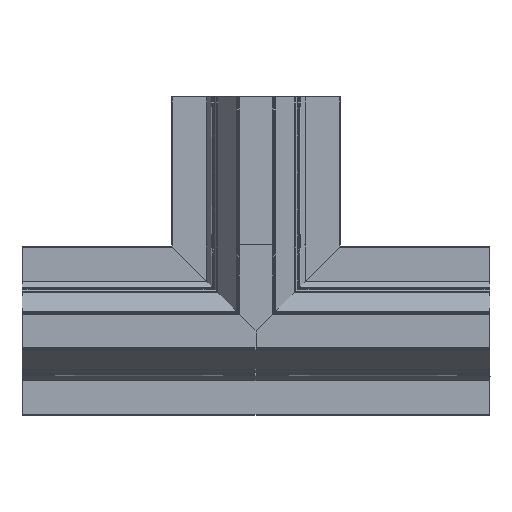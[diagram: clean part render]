
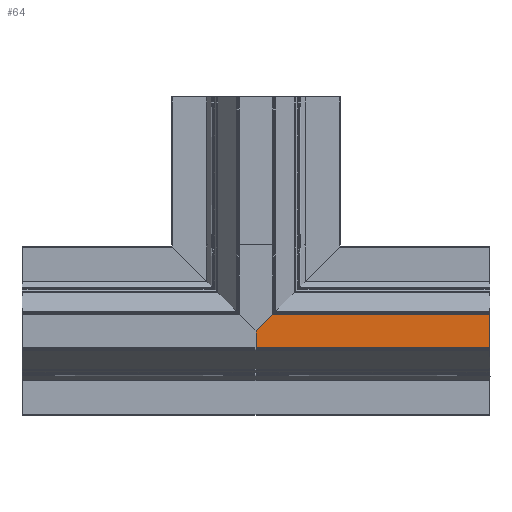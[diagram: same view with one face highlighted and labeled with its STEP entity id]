
A CAD part, top view. The second image highlights one B-rep face of the part: STEP entity #64.
In plain terms, the highlighted free-form (B-spline) face has degree [1, 1] with [2, 2] control points.
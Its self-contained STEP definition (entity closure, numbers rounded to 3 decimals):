
#64=ADVANCED_FACE('',(#348),#8996,.T.);
#348=FACE_OUTER_BOUND('',#632,.T.);
#632=EDGE_LOOP('',(#1282,#1283,#1284,#1285,#1286));
#1282=ORIENTED_EDGE('',*,*,#6371,.T.);
#1283=ORIENTED_EDGE('',*,*,#6369,.F.);
#1284=ORIENTED_EDGE('',*,*,#6086,.F.);
#1285=ORIENTED_EDGE('',*,*,#6372,.T.);
#1286=ORIENTED_EDGE('',*,*,#6373,.T.);
#2275=PCURVE('',#8970,#3651);
#2654=PCURVE('',#8995,#4030);
#2658=PCURVE('',#8996,#4034);
#2659=PCURVE('',#8996,#4035);
#2660=PCURVE('',#8996,#4036);
#2661=PCURVE('',#8996,#4037);
#2662=PCURVE('',#8996,#4038);
#2663=PCURVE('',#8997,#4039);
#2916=PCURVE('',#9029,#4292);
#3181=PCURVE('',#9064,#4557);
#3651=DEFINITIONAL_REPRESENTATION('',(#5042),#16191);
#4030=DEFINITIONAL_REPRESENTATION('',(#7132),#16191);
#4034=DEFINITIONAL_REPRESENTATION('',(#7138),#16191);
#4035=DEFINITIONAL_REPRESENTATION('',(#7139),#16191);
#4036=DEFINITIONAL_REPRESENTATION('',(#7140),#16191);
#4037=DEFINITIONAL_REPRESENTATION('',(#7142),#16191);
#4038=DEFINITIONAL_REPRESENTATION('',(#7144),#16191);
#4039=DEFINITIONAL_REPRESENTATION('',(#7145),#16191);
#4292=DEFINITIONAL_REPRESENTATION('',(#7492),#16191);
#4557=DEFINITIONAL_REPRESENTATION('',(#7873),#16191);
#5042=(
BOUNDED_CURVE()
B_SPLINE_CURVE(2,(#11236,#11237,#11238),.UNSPECIFIED.,.F.,.F.)
B_SPLINE_CURVE_WITH_KNOTS((3,3),(69.16,132.84),
 .UNSPECIFIED.)
CURVE()
GEOMETRIC_REPRESENTATION_ITEM()
RATIONAL_B_SPLINE_CURVE((1.,1.,1.))
REPRESENTATION_ITEM('')
);
#5398=SURFACE_CURVE('',#6759,(#2275,#2660),.PCURVE_S1.);
#5681=SURFACE_CURVE('',#7131,(#2654,#2659),.PCURVE_S1.);
#5683=SURFACE_CURVE('',#7137,(#2658,#2916),.PCURVE_S1.);
#5684=SURFACE_CURVE('',#7141,(#2661,#2663),.PCURVE_S1.);
#5685=SURFACE_CURVE('',#7143,(#2662,#3181),.PCURVE_S1.);
#6086=EDGE_CURVE('',#8439,#8438,#5398,.T.);
#6369=EDGE_CURVE('',#8438,#8516,#5681,.T.);
#6371=EDGE_CURVE('',#8637,#8516,#5683,.T.);
#6372=EDGE_CURVE('',#8439,#8668,#5684,.T.);
#6373=EDGE_CURVE('',#8668,#8637,#5685,.T.);
#6759=B_SPLINE_CURVE_WITH_KNOTS('',1,(#11234,#11235),.UNSPECIFIED.,.F.,
 .F.,(2,2),(69.16,132.84),.UNSPECIFIED.);
#7131=B_SPLINE_CURVE_WITH_KNOTS('',1,(#12984,#12985),.UNSPECIFIED.,.F.,
 .F.,(2,2),(-1505.8,-1224.8),.UNSPECIFIED.);
#7132=B_SPLINE_CURVE_WITH_KNOTS('',1,(#12986,#12987),.UNSPECIFIED.,.F.,
 .F.,(2,2),(-1505.8,-1224.8),.UNSPECIFIED.);
#7137=B_SPLINE_CURVE_WITH_KNOTS('',1,(#12996,#12997),.UNSPECIFIED.,.F.,
 .F.,(2,2),(6043.875,6075.715),.UNSPECIFIED.);
#7138=B_SPLINE_CURVE_WITH_KNOTS('',1,(#12998,#12999),.UNSPECIFIED.,.F.,
 .F.,(2,2),(6043.875,6075.715),.UNSPECIFIED.);
#7139=B_SPLINE_CURVE_WITH_KNOTS('',1,(#13000,#13001),.UNSPECIFIED.,.F.,
 .F.,(2,2),(-1505.8,-1224.8),.UNSPECIFIED.);
#7140=B_SPLINE_CURVE_WITH_KNOTS('',1,(#13002,#13003),.UNSPECIFIED.,.F.,
 .F.,(2,2),(69.16,132.84),.UNSPECIFIED.);
#7141=B_SPLINE_CURVE_WITH_KNOTS('',1,(#13004,#13005),.UNSPECIFIED.,.F.,
 .F.,(2,2),(-1505.8,-1256.64),.UNSPECIFIED.);
#7142=B_SPLINE_CURVE_WITH_KNOTS('',1,(#13006,#13007),.UNSPECIFIED.,.F.,
 .F.,(2,2),(-1505.8,-1256.64),.UNSPECIFIED.);
#7143=B_SPLINE_CURVE_WITH_KNOTS('',1,(#13008,#13009),.UNSPECIFIED.,.F.,
 .F.,(2,2),(-45.029,0.),.UNSPECIFIED.);
#7144=B_SPLINE_CURVE_WITH_KNOTS('',1,(#13010,#13011),.UNSPECIFIED.,.F.,
 .F.,(2,2),(-45.029,0.),.UNSPECIFIED.);
#7145=B_SPLINE_CURVE_WITH_KNOTS('',1,(#13012,#13013),.UNSPECIFIED.,.F.,
 .F.,(2,2),(-1505.8,-1256.64),.UNSPECIFIED.);
#7492=B_SPLINE_CURVE_WITH_KNOTS('',1,(#13854,#13855),.UNSPECIFIED.,.F.,
 .F.,(2,2),(6043.875,6075.715),.UNSPECIFIED.);
#7873=B_SPLINE_CURVE_WITH_KNOTS('',1,(#14890,#14891),.UNSPECIFIED.,.F.,
 .F.,(2,2),(-45.029,0.),.UNSPECIFIED.);
#8438=VERTEX_POINT('',#10651);
#8439=VERTEX_POINT('',#10652);
#8516=VERTEX_POINT('',#10729);
#8637=VERTEX_POINT('',#10850);
#8668=VERTEX_POINT('',#10881);
#8970=B_SPLINE_SURFACE_WITH_KNOTS('',1,1,((#9144,#9145),(#9146,#9147)),
 .UNSPECIFIED.,.F.,.F.,.F.,(2,2),(2,2),(-203.82,2.22),
(-3.,37.8),.UNSPECIFIED.);
#8995=B_SPLINE_SURFACE_WITH_KNOTS('',1,1,((#9394,#9395),(#9396,#9397)),
 .UNSPECIFIED.,.F.,.F.,.F.,(2,2),(2,2),(-707.4,-132.2),
(-14.788,14.788),.UNSPECIFIED.);
#8996=B_SPLINE_SURFACE_WITH_KNOTS('',1,1,((#9398,#9399),(#9400,#9401)),
 .UNSPECIFIED.,.F.,.F.,.F.,(2,2),(2,2),(-707.4,-132.2),
(-31.84,31.84),.UNSPECIFIED.);
#8997=B_SPLINE_SURFACE_WITH_KNOTS('',1,1,((#9402,#9403),(#9404,#9405)),
 .UNSPECIFIED.,.F.,.F.,.F.,(2,2),(2,2),(-707.4,-132.2),
(-14.788,14.788),.UNSPECIFIED.);
#9029=B_SPLINE_SURFACE_WITH_KNOTS('',1,1,((#9734,#9735),(#9736,#9737)),
 .UNSPECIFIED.,.F.,.F.,.F.,(2,2),(2,2),(-31.84,31.84),
(132.2,707.4),.UNSPECIFIED.);
#9064=B_SPLINE_SURFACE_WITH_KNOTS('',1,1,((#10078,#10079),(#10080,#10081)),
 .UNSPECIFIED.,.F.,.F.,.F.,(2,2),(2,2),(-31.84,31.84),
(132.2,707.4),.UNSPECIFIED.);
#9144=CARTESIAN_POINT('',(12817.995,-4605.185,902.1));
#9145=CARTESIAN_POINT('',(12817.995,-4605.185,942.9));
#9146=CARTESIAN_POINT('',(12817.995,-4399.145,902.1));
#9147=CARTESIAN_POINT('',(12817.995,-4399.145,942.9));
#9394=CARTESIAN_POINT('',(12536.995,-4524.863,938.05));
#9395=CARTESIAN_POINT('',(12536.995,-4534.005,909.923));
#9396=CARTESIAN_POINT('',(13112.195,-4524.863,938.05));
#9397=CARTESIAN_POINT('',(13112.195,-4534.005,909.923));
#9398=CARTESIAN_POINT('',(12536.995,-4534.005,909.923));
#9399=CARTESIAN_POINT('',(12536.995,-4470.325,909.923));
#9400=CARTESIAN_POINT('',(13112.195,-4534.005,909.923));
#9401=CARTESIAN_POINT('',(13112.195,-4470.325,909.923));
#9402=CARTESIAN_POINT('',(12536.995,-4470.325,909.923));
#9403=CARTESIAN_POINT('',(12536.995,-4479.467,938.05));
#9404=CARTESIAN_POINT('',(13112.195,-4470.325,909.923));
#9405=CARTESIAN_POINT('',(13112.195,-4479.467,938.05));
#9734=CARTESIAN_POINT('',(12536.995,-4534.005,909.923));
#9735=CARTESIAN_POINT('',(11961.795,-4534.005,909.923));
#9736=CARTESIAN_POINT('',(12536.995,-4470.325,909.923));
#9737=CARTESIAN_POINT('',(11961.795,-4470.325,909.923));
#10078=CARTESIAN_POINT('',(12568.835,-4398.886,909.923));
#10079=CARTESIAN_POINT('',(12568.835,-4974.086,909.923));
#10080=CARTESIAN_POINT('',(12505.155,-4398.886,909.923));
#10081=CARTESIAN_POINT('',(12505.155,-4974.086,909.923));
#10651=CARTESIAN_POINT('',(12817.995,-4534.005,909.923));
#10652=CARTESIAN_POINT('',(12817.995,-4470.325,909.923));
#10729=CARTESIAN_POINT('',(12536.995,-4534.005,909.923));
#10850=CARTESIAN_POINT('',(12536.995,-4502.165,909.923));
#10881=CARTESIAN_POINT('',(12568.835,-4470.325,909.923));
#11234=CARTESIAN_POINT('',(12817.995,-4470.325,909.923));
#11235=CARTESIAN_POINT('',(12817.995,-4534.005,909.923));
#11236=CARTESIAN_POINT('',(-68.96,4.823));
#11237=CARTESIAN_POINT('',(-100.8,4.823));
#11238=CARTESIAN_POINT('',(-132.64,4.823));
#12984=CARTESIAN_POINT('',(12817.995,-4534.005,909.923));
#12985=CARTESIAN_POINT('',(12536.995,-4534.005,909.923));
#12986=CARTESIAN_POINT('',(-426.4,14.788));
#12987=CARTESIAN_POINT('',(-707.4,14.788));
#12996=CARTESIAN_POINT('',(12536.995,-4502.165,909.923));
#12997=CARTESIAN_POINT('',(12536.995,-4534.005,909.923));
#12998=CARTESIAN_POINT('',(-707.4,0.));
#12999=CARTESIAN_POINT('',(-707.4,-31.84));
#13000=CARTESIAN_POINT('',(-426.4,-31.84));
#13001=CARTESIAN_POINT('',(-707.4,-31.84));
#13002=CARTESIAN_POINT('',(-426.4,31.84));
#13003=CARTESIAN_POINT('',(-426.4,-31.84));
#13004=CARTESIAN_POINT('',(12817.995,-4470.325,909.923));
#13005=CARTESIAN_POINT('',(12568.835,-4470.325,909.923));
#13006=CARTESIAN_POINT('',(-426.4,31.84));
#13007=CARTESIAN_POINT('',(-675.56,31.84));
#13008=CARTESIAN_POINT('',(12568.835,-4470.325,909.923));
#13009=CARTESIAN_POINT('',(12536.995,-4502.165,909.923));
#13010=CARTESIAN_POINT('',(-675.56,31.84));
#13011=CARTESIAN_POINT('',(-707.4,0.));
#13012=CARTESIAN_POINT('',(-426.4,-14.788));
#13013=CARTESIAN_POINT('',(-675.56,-14.788));
#13854=CARTESIAN_POINT('',(0.,132.2));
#13855=CARTESIAN_POINT('',(-31.84,132.2));
#14890=CARTESIAN_POINT('',(-31.84,203.639));
#14891=CARTESIAN_POINT('',(0.,235.479));
#16191=(
GEOMETRIC_REPRESENTATION_CONTEXT(2)
PARAMETRIC_REPRESENTATION_CONTEXT()
REPRESENTATION_CONTEXT('pspace','')
);
